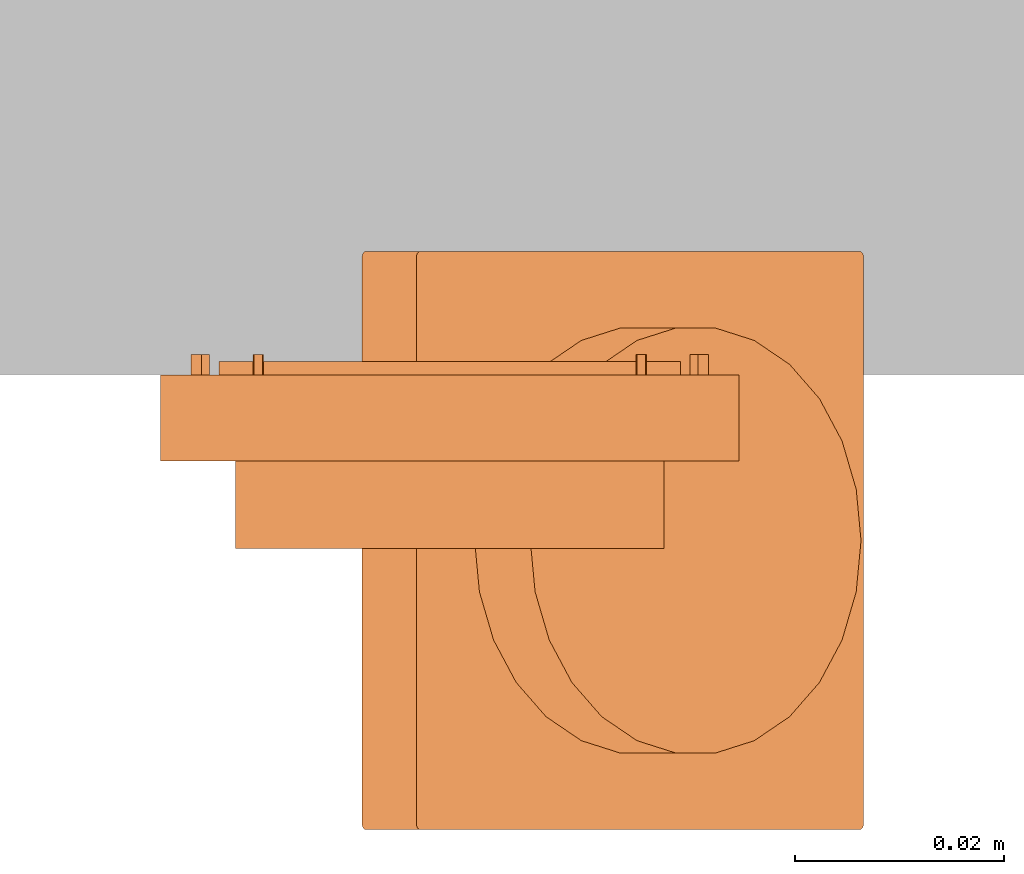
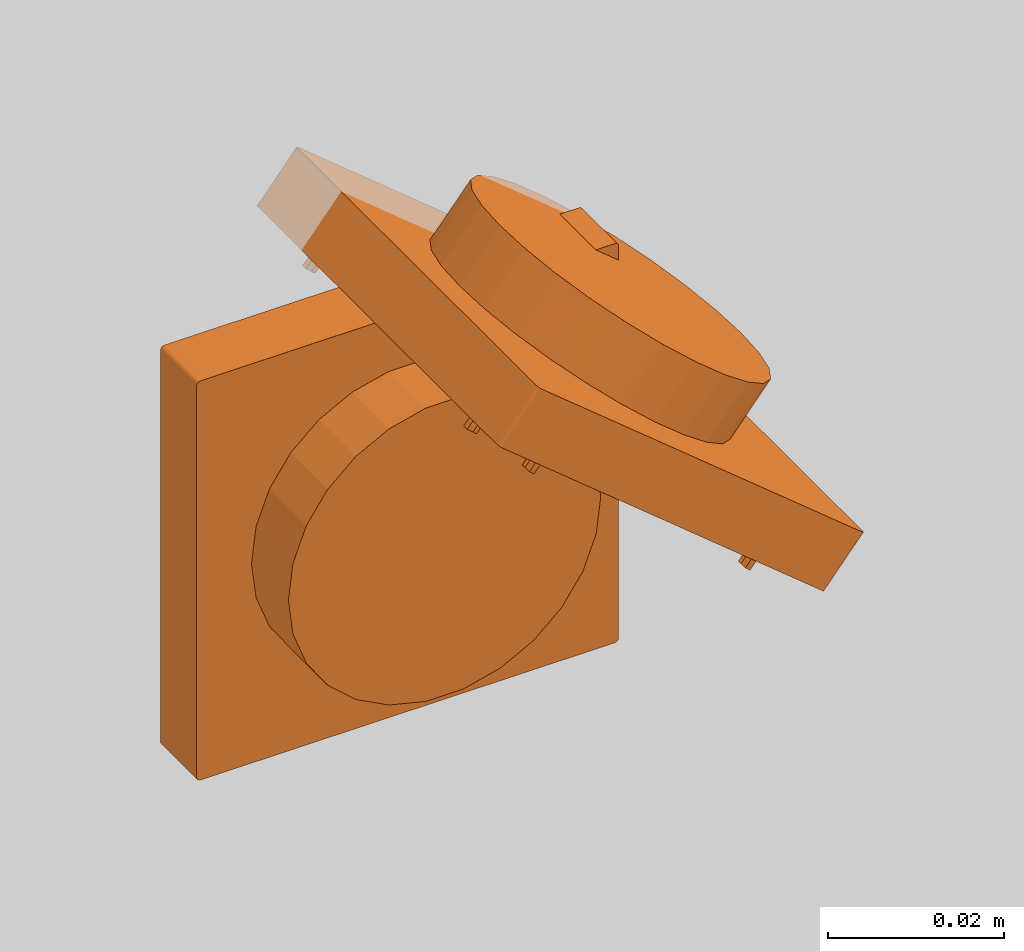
# One storey, part 2 of 2: 2 proxies.
"""IFC2X3 building model written with IfcOpenShell, lengths in metres."""

from ifc_helpers import new_model, entity, si_unit, converted_unit, derived_unit, direction, frame, frame_2d, origin, origin_2d_with_axis, place, context, subcontext, project, spatial, polyline, circle_curve, parameter, trimmed, segment, composite_curve, circle, outline, extrude, source, transform, mapped, material, type_object, type_shapes, element, save


model = new_model("IFC2X3")

# Units and contexts
model_context = context("Model", 3, precision=1e-05, world=origin(), true_north=direction((6.12303176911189e-17, 1.0)))
body_context = subcontext(model_context, "Body", "Model", "MODEL_VIEW")
ifc_project = project(units=[si_unit("LENGTHUNIT", "METRE"), si_unit("AREAUNIT", "SQUARE_METRE"), si_unit("VOLUMEUNIT", "CUBIC_METRE"), converted_unit("PLANEANGLEUNIT", "DEGREE", entity("IfcRatioMeasure", 0.0174532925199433), si_unit("PLANEANGLEUNIT", "RADIAN"), dimensions=[0, 0, 0, 0, 0, 0, 0]), si_unit("MASSUNIT", "GRAM", prefix="KILO"), si_unit("TIMEUNIT", "SECOND"), si_unit("FREQUENCYUNIT", "HERTZ"), si_unit("THERMODYNAMICTEMPERATUREUNIT", "DEGREE_CELSIUS"), derived_unit("THERMALTRANSMITTANCEUNIT", [(si_unit("MASSUNIT", "GRAM", prefix="KILO"), 1), (si_unit("THERMODYNAMICTEMPERATUREUNIT", "KELVIN"), -1), (si_unit("TIMEUNIT", "SECOND"), -3)]), derived_unit("VOLUMETRICFLOWRATEUNIT", [(si_unit("LENGTHUNIT", "METRE"), 3), (si_unit("TIMEUNIT", "SECOND"), -1)]), si_unit("ELECTRICCURRENTUNIT", "AMPERE"), si_unit("ELECTRICVOLTAGEUNIT", "VOLT"), si_unit("POWERUNIT", "WATT"), si_unit("FORCEUNIT", "NEWTON", prefix="KILO"), si_unit("ILLUMINANCEUNIT", "LUX"), si_unit("LUMINOUSFLUXUNIT", "LUMEN"), si_unit("LUMINOUSINTENSITYUNIT", "CANDELA"), derived_unit("USERDEFINED", [(si_unit("MASSUNIT", "GRAM", prefix="KILO"), -1), (si_unit("LENGTHUNIT", "METRE"), -2), (si_unit("TIMEUNIT", "SECOND"), 3), (si_unit("LUMINOUSFLUXUNIT", "LUMEN"), 1)]), derived_unit("LINEARVELOCITYUNIT", [(si_unit("LENGTHUNIT", "METRE"), 1), (si_unit("TIMEUNIT", "SECOND"), -1)]), si_unit("PRESSUREUNIT", "PASCAL"), derived_unit("USERDEFINED", [(si_unit("LENGTHUNIT", "METRE"), -2), (si_unit("MASSUNIT", "GRAM", prefix="KILO"), 1), (si_unit("TIMEUNIT", "SECOND"), -2)])], contexts=[model_context])

# Site, building, storey
site_placement = place(None, origin())
site = spatial("IfcSite", under=ifc_project, at=site_placement, Name="Default", CompositionType="ELEMENT")
building_placement = place(site_placement, origin())
building = spatial("IfcBuilding", under=site, at=building_placement, CompositionType="ELEMENT")
storey_placement = place(building_placement, origin())
storey = spatial("IfcBuildingStorey", under=building, at=storey_placement, Name="Ebene 0", CompositionType="ELEMENT", Elevation=0.0)

# Proxies
ifc_material = material(Name="White")
building_element_proxy_type = type_object("IfcBuildingElementProxyType", Name="GIRA_065227_ENG", PredefinedType="NOTDEFINED", material=ifc_material)
shared_shape = source(origin(), body_context, "Body", "SweptSolid", [
    extrude(outline(polyline([(0.0124903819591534, -0.0367577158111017), (0.0125960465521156, -0.0367946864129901), (0.0127072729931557, -0.0368072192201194), (0.0128184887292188, -0.0367946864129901), (0.0129241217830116, -0.0367577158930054), (0.0130188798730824, -0.0366981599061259), (0.0130980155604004, -0.0366190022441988), (0.0131575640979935, -0.0365242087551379), (0.0367577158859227, 0.0124903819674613), (0.0367946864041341, 0.0125960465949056), (0.0368072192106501, 0.012707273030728), (0.0367946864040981, 0.0128184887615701), (0.0367577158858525, 0.012924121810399), (0.0366981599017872, 0.0130188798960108), (0.0366190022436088, 0.0130980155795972), (0.0365242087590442, 0.0131575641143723), (-0.0124903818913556, 0.0367577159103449), (-0.0125960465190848, 0.036794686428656), (-0.0127072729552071, 0.0368072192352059), (-0.0128184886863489, 0.0367946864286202), (-0.0129241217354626, 0.0367577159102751), (-0.0130188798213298, 0.0366981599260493), (-0.0130980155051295, 0.0366190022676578), (-0.0131575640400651, 0.0365242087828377), (-0.0367577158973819, -0.0124903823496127), (-0.0367946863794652, -0.0125960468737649), (-0.036807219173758, -0.012707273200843), (-0.0367946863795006, -0.0128184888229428), (-0.0367577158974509, -0.0129241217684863), (-0.036698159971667, -0.0130188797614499), (-0.0366190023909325, -0.0130980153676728), (-0.0365242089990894, -0.0131575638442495), (0.0124903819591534, -0.0367577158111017)])), frame((0.0, 0.0, 0.00719999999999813), z_axis=(0.0, 0.0, 1.0), x_axis=(0.433823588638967, -0.900997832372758, 0.0)), (0.0, 0.0, 1.0), 0.000999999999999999),
    extrude(outline(composite_curve([segment(trimmed(circle_curve(frame_2d((0.0, -0.00392499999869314), x_axis=(1.0, 0.0)), 0.00990000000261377), [parameter(3.56222124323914e-13)], [parameter(52.4601073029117)], True, "PARAMETER"), True, "CONTINUOUS"), segment(polyline([(0.00603220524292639, 0.00392499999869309), (-0.00603220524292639, 0.00392499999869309)]), True, "CONTINUOUS"), segment(trimmed(circle_curve(frame_2d((0.0, -0.00392499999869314), x_axis=(1.0, 0.0)), 0.00990000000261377), [parameter(127.539892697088)], [parameter(180.0)], True, "PARAMETER"), True, "CONTINUOUS"), segment(trimmed(circle_curve(frame_2d((0.0, -0.00392499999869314), x_axis=(1.0, 0.0)), 0.00990000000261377), [parameter(180.0)], [parameter(360.0)], True, "PARAMETER"), True, "CONTINUOUS")], self_intersect=False), holes=[composite_curve([segment(trimmed(circle_curve(frame_2d((0.0, -0.00392500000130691), x_axis=(-1.0, 0.0)), 0.00525), [parameter(89.9999999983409)], [parameter(270.00000000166)], True, "PARAMETER"), False, "CONTINUOUS"), segment(trimmed(circle_curve(frame_2d((0.0, -0.00392500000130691), x_axis=(-1.0, 0.0)), 0.00525), [parameter(269.999999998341)], [parameter(90.0000000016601)], True, "PARAMETER"), False, "CONTINUOUS")], self_intersect=False)]), frame((0.0, -0.00392500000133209, 0.000199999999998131), z_axis=(0.0, 0.0, 1.0), x_axis=(-1.0, 0.0, 0.0)), (0.0, 0.0, 1.0), 0.006),
    extrude(outline(composite_curve([segment(trimmed(circle_curve(origin_2d_with_axis(), 0.0220999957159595), [parameter(0.0)], [parameter(180.0)], True, "PARAMETER"), True, "CONTINUOUS"), segment(trimmed(circle_curve(origin_2d_with_axis(), 0.0220999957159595), [parameter(180.0)], [parameter(360.0)], True, "PARAMETER"), True, "CONTINUOUS")], self_intersect=False), holes=[composite_curve([segment(trimmed(circle_curve(frame_2d((4.99625952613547e-09, 1.77921753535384e-09), x_axis=(-1.0, 0.0)), 0.00990000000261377), [parameter(127.539892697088)], [parameter(180.0)], True, "PARAMETER"), False, "CONTINUOUS"), segment(polyline([(0.00603221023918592, -0.0078499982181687), (0.0140000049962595, -0.0078499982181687)]), True, "CONTINUOUS"), segment(polyline([(0.0140000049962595, -0.0078499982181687), (0.0140000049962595, -0.0153999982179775)]), True, "CONTINUOUS"), segment(trimmed(circle_curve(frame_2d((0.0122500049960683, -0.0153999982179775), x_axis=(1.0, 0.0)), 0.00175000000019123), [parameter(269.999999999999)], [parameter(360.0)], True, "PARAMETER"), False, "CONTINUOUS"), segment(polyline([(0.0122500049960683, -0.017149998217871), (0.0068000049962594, -0.017149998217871)]), True, "CONTINUOUS"), segment(polyline([(0.0068000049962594, -0.017149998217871), (0.0068000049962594, -0.0181499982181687)]), True, "CONTINUOUS"), segment(polyline([(0.0068000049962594, -0.0181499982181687), (-0.000999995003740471, -0.0181499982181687)]), True, "CONTINUOUS"), segment(polyline([(-0.000999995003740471, -0.0181499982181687), (-0.000999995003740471, -0.0171499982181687)]), True, "CONTINUOUS"), segment(polyline([(-0.000999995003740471, -0.0171499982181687), (-0.0122499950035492, -0.0171499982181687)]), True, "CONTINUOUS"), segment(trimmed(circle_curve(frame_2d((-0.0122499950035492, -0.0153999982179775), x_axis=(1.0, 0.0)), 0.00175000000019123), [parameter(180.0)], [parameter(269.999999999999)], True, "PARAMETER"), False, "CONTINUOUS"), segment(polyline([(-0.0139999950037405, -0.0153999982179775), (-0.0139999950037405, -0.0078499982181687)]), True, "CONTINUOUS"), segment(polyline([(-0.0139999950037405, -0.0078499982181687), (-0.00603220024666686, -0.0078499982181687)]), True, "CONTINUOUS"), segment(trimmed(circle_curve(frame_2d((4.99625952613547e-09, 1.77921753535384e-09), x_axis=(-1.0, 0.0)), 0.00990000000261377), [parameter(3.05333249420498e-13)], [parameter(52.4601073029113)], True, "PARAMETER"), False, "CONTINUOUS"), segment(trimmed(circle_curve(frame_2d((4.99625952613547e-09, 1.77921753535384e-09), x_axis=(-1.0, 0.0)), 0.00990000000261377), [parameter(180.0)], [parameter(0.0)], True, "PARAMETER"), False, "CONTINUOUS")], self_intersect=False), composite_curve([segment(trimmed(circle_curve(frame_2d((0.0050000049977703, 0.0185000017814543), x_axis=(1.0, 0.0)), 0.00200000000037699), [parameter(180.0)], [parameter(360.0)], True, "PARAMETER"), False, "CONTINUOUS"), segment(trimmed(circle_curve(frame_2d((0.0050000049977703, 0.0185000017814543), x_axis=(1.0, 0.0)), 0.00200000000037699), [parameter(4.07110999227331e-13)], [parameter(180.0)], True, "PARAMETER"), False, "CONTINUOUS")], self_intersect=False)]), frame((-4.99624068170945e-09, -1.78185648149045e-09, -0.00130000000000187)), (0.0, 0.0, 1.0), 0.0075),
    extrude(outline(composite_curve([segment(trimmed(circle_curve(origin_2d_with_axis(), 0.00500000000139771), [parameter(306.869897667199)], [parameter(53.1301023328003)], True, "PARAMETER"), True, "CONTINUOUS"), segment(polyline([(0.00300000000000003, 0.00399999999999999), (-0.00300000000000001, 0.00400000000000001)]), True, "CONTINUOUS"), segment(trimmed(circle_curve(origin_2d_with_axis(), 0.00500000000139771), [parameter(126.8698976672)], [parameter(233.1301023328)], True, "PARAMETER"), True, "CONTINUOUS"), segment(polyline([(-0.00300000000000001, -0.00399999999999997), (0.00300000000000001, -0.00399999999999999)]), True, "CONTINUOUS")], self_intersect=False)), frame((0.0, 0.0, -0.000800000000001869), z_axis=(0.0, 0.0, 1.0), x_axis=(-1.0, 0.0, 0.0)), (0.0, 0.0, 1.0), 0.007),
    extrude(outline(composite_curve([segment(polyline([(-0.00049999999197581, -0.000399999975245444), (0.000499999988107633, -0.000399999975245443)]), True, "CONTINUOUS"), segment(trimmed(circle_curve(frame_2d((0.000800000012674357, 0.0), x_axis=(-1.0, 0.0)), 0.000499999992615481), [parameter(53.1300982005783)], [parameter(306.869900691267)], True, "PARAMETER"), True, "CONTINUOUS"), segment(polyline([(0.000499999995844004, 0.000399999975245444), (-0.000499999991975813, 0.000399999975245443)]), True, "CONTINUOUS"), segment(polyline([(-0.000499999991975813, 0.000399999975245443), (-0.00049999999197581, -0.000399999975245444)]), True, "CONTINUOUS")], self_intersect=False)), frame((0.0183499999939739, 0.0243000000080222, -0.00200000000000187), z_axis=(0.0, 0.0, 1.0), x_axis=(0.0, -1.0, 0.0)), (0.0, 0.0, 1.0), 0.0082),
    extrude(outline(composite_curve([segment(polyline([(-0.00049999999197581, -0.000399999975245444), (0.000499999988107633, -0.000399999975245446)]), True, "CONTINUOUS"), segment(trimmed(circle_curve(frame_2d((0.000800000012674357, 0.0), x_axis=(-1.0, 0.0)), 0.000499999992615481), [parameter(53.1300982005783)], [parameter(306.869900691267)], True, "PARAMETER"), True, "CONTINUOUS"), segment(polyline([(0.000499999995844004, 0.000399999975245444), (-0.000499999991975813, 0.000399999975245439)]), True, "CONTINUOUS"), segment(polyline([(-0.000499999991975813, 0.000399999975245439), (-0.00049999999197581, -0.000399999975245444)]), True, "CONTINUOUS")], self_intersect=False)), frame((-0.0183500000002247, 0.0243000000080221, -0.00200000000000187), z_axis=(0.0, 0.0, 1.0), x_axis=(0.0, -1.0, 0.0)), (0.0, 0.0, 1.0), 0.0082),
    extrude(outline(composite_curve([segment(polyline([(-0.000399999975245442, -0.000499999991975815), (0.000399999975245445, -0.000499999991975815)]), True, "CONTINUOUS"), segment(polyline([(0.000399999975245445, -0.000499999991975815), (0.000399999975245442, 0.000499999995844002)]), True, "CONTINUOUS"), segment(trimmed(circle_curve(frame_2d((0.0, 0.000800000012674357), x_axis=(0.0, -1.0)), 0.000499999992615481), [parameter(53.1300993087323)], [parameter(306.869901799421)], True, "PARAMETER"), True, "CONTINUOUS"), segment(polyline([(-0.000399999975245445, 0.000499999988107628), (-0.000399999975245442, -0.000499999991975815)]), True, "CONTINUOUS")], self_intersect=False)), frame((0.0183499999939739, -0.0243000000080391, -0.00200000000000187)), (0.0, 0.0, 1.0), 0.0082),
    extrude(outline(composite_curve([segment(polyline([(-0.000399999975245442, -0.000499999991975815), (0.000399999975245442, -0.000499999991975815)]), True, "CONTINUOUS"), segment(polyline([(0.000399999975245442, -0.000499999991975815), (0.000399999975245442, 0.000499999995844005)]), True, "CONTINUOUS"), segment(trimmed(circle_curve(frame_2d((0.0, 0.000800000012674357), x_axis=(0.0, -1.0)), 0.000499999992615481), [parameter(53.1300993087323)], [parameter(306.869901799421)], True, "PARAMETER"), True, "CONTINUOUS"), segment(polyline([(-0.000399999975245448, 0.000499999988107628), (-0.000399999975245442, -0.000499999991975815)]), True, "CONTINUOUS")], self_intersect=False)), frame((-0.0183500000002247, -0.024300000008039, -0.00200000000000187)), (0.0, 0.0, 1.0), 0.0082),
    extrude(outline(composite_curve([segment(polyline([(-0.000499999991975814, -0.000399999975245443), (0.000499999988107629, -0.000399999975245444)]), True, "CONTINUOUS"), segment(trimmed(circle_curve(frame_2d((0.000800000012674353, 0.0), x_axis=(-1.0, 0.0)), 0.000499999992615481), [parameter(53.1300982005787)], [parameter(306.869900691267)], True, "PARAMETER"), True, "CONTINUOUS"), segment(polyline([(0.000499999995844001, 0.000399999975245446), (-0.000499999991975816, 0.000399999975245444)]), True, "CONTINUOUS"), segment(polyline([(-0.000499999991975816, 0.000399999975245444), (-0.000499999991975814, -0.000399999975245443)]), True, "CONTINUOUS")], self_intersect=False)), frame((0.0243000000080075, -0.0183499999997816, -0.00200000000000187), z_axis=(0.0, 0.0, 1.0), x_axis=(-1.0, 0.0, 0.0)), (0.0, 0.0, 1.0), 0.0082),
    extrude(outline(composite_curve([segment(polyline([(-0.000499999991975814, -0.000399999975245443), (0.000499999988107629, -0.000399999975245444)]), True, "CONTINUOUS"), segment(trimmed(circle_curve(frame_2d((0.000800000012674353, 0.0), x_axis=(-1.0, 0.0)), 0.000499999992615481), [parameter(53.1300982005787)], [parameter(306.869900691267)], True, "PARAMETER"), True, "CONTINUOUS"), segment(polyline([(0.000499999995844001, 0.000399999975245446), (-0.000499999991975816, 0.000399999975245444)]), True, "CONTINUOUS"), segment(polyline([(-0.000499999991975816, 0.000399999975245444), (-0.000499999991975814, -0.000399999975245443)]), True, "CONTINUOUS")], self_intersect=False)), frame((0.0243000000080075, 0.0183500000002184, -0.00200000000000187), z_axis=(0.0, 0.0, 1.0), x_axis=(-1.0, 0.0, 0.0)), (0.0, 0.0, 1.0), 0.0082),
    extrude(outline(composite_curve([segment(polyline([(-0.000399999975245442, -0.000499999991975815), (0.000399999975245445, -0.000499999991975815)]), True, "CONTINUOUS"), segment(polyline([(0.000399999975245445, -0.000499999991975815), (0.000399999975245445, 0.000499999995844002)]), True, "CONTINUOUS"), segment(trimmed(circle_curve(frame_2d((0.0, 0.000800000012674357), x_axis=(0.0, -1.0)), 0.000499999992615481), [parameter(53.1300993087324)], [parameter(306.869901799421)], True, "PARAMETER"), True, "CONTINUOUS"), segment(polyline([(-0.000399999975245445, 0.000499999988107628), (-0.000399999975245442, -0.000499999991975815)]), True, "CONTINUOUS")], self_intersect=False)), frame((-0.024300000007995, -0.0183499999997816, -0.00200000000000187), z_axis=(0.0, 0.0, 1.0), x_axis=(0.0, -1.0, 0.0)), (0.0, 0.0, 1.0), 0.0082),
    extrude(outline(composite_curve([segment(polyline([(-0.000399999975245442, -0.000499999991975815), (0.000399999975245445, -0.000499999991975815)]), True, "CONTINUOUS"), segment(polyline([(0.000399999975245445, -0.000499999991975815), (0.000399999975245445, 0.000499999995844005)]), True, "CONTINUOUS"), segment(trimmed(circle_curve(frame_2d((0.0, 0.000800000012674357), x_axis=(0.0, -1.0)), 0.000499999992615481), [parameter(53.1300993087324)], [parameter(306.869901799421)], True, "PARAMETER"), True, "CONTINUOUS"), segment(polyline([(-0.000399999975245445, 0.000499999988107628), (-0.000399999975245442, -0.000499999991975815)]), True, "CONTINUOUS")], self_intersect=False)), frame((-0.0243000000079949, 0.0183500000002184, -0.00200000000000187), z_axis=(0.0, 0.0, 1.0), x_axis=(0.0, -1.0, 0.0)), (0.0, 0.0, 1.0), 0.0082),
    extrude(outline(polyline([(0.0124903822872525, -0.0367577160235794), (0.0125960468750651, -0.0367946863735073), (0.0127072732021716, -0.0368072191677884), (0.0128184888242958, -0.0367946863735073), (0.0129241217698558, -0.0367577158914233), (0.0130188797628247, -0.0366981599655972), (0.013098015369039, -0.0366190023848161), (0.0131575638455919, -0.0365242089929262), (0.0367577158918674, 0.0124903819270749), (0.0367946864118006, 0.0125960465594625), (0.0368072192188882, 0.0127072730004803), (0.0367946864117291, 0.0128184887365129), (0.0367577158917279, 0.0129241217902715), (0.0366981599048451, 0.0130188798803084), (0.0366190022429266, 0.0130980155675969), (0.0365242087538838, 0.0131575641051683), (-0.0124903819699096, 0.0367577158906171), (-0.0125960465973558, 0.0367946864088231), (-0.0127072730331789, 0.0368072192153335), (-0.0128184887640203, 0.0367946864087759), (-0.0129241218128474, 0.036757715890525), (-0.0130188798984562, 0.0366981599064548), (-0.0130980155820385, 0.0366190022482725), (-0.0131575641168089, 0.0365242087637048), (-0.036757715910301, -0.0124903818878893), (-0.0367946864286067, -0.0125960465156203), (-0.036807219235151, -0.0127072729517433), (-0.0367946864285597, -0.0128184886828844), (-0.0367577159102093, -0.0129241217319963), (-0.0366981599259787, -0.0130188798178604), (-0.0366190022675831, -0.0130980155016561), (-0.0365242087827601, -0.0131575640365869), (0.0124903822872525, -0.0367577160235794)]), holes=[polyline([(-0.0282598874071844, -0.0154719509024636), (-0.0349723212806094, -0.0122399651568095), (-0.0317403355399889, -0.0055275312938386), (-0.0304789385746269, -0.00613488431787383), (-0.0301318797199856, -0.00541408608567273), (-0.0313932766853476, -0.00480673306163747), (-0.0158190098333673, 0.0275390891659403), (-0.0145576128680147, 0.0269317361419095), (-0.0142105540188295, 0.0276525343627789), (-0.0154719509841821, 0.0282598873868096), (-0.0122399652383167, 0.0349723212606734), (-0.00552753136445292, 0.031740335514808), (-0.00613488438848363, 0.0304789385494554), (-0.00541408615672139, 0.0301318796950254), (-0.00480673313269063, 0.0313932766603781), (0.027539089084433, 0.0158190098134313), (0.0269317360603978, 0.0145576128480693), (0.027652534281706, 0.0142105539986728), (0.0282598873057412, 0.0154719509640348), (0.0349723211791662, 0.0122399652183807), (0.0317403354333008, 0.0055275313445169), (0.0304789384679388, 0.00613488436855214), (0.0301318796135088, 0.00541408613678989), (0.0313932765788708, 0.00480673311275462), (0.0158190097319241, -0.027539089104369), (0.0145576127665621, -0.0269317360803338), (0.0142105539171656, -0.027652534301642), (0.0154719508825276, -0.0282598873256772), (0.0122399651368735, -0.0349723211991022), (0.00552753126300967, -0.0317403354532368), (0.00613488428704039, -0.0304789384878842), (0.00541408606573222, -0.0301318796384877), (0.00480673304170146, -0.0313932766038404), (-0.0275390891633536, -0.0158190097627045), (-0.0269317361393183, -0.0145576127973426), (-0.0276525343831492, -0.0142105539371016), (-0.0282598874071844, -0.0154719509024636)])]), frame((0.0, 0.0, 0.0), z_axis=(0.0, 0.0, 1.0), x_axis=(-0.900997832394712, -0.433823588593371, 0.0)), (0.0, 0.0, 1.0), 0.0072),
    extrude(circle(Radius=0.0205000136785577, at=frame_2d((0.00152387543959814, -0.000611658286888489), x_axis=(1.0, 0.0))), frame((0.00152387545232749, -0.000611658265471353, 0.00819999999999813), z_axis=(0.0, 0.0, 1.0), x_axis=(-1.0, 0.0, 0.0)), (0.0, 0.0, 1.0), 0.0084),
])
type_shapes(building_element_proxy_type, [shared_shape])
for number, where, z_axis, x_axis, name in (
    (1, (-3.59723411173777, 2.83066111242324, 1.50687294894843), (0.0, -1.0, 0.0), (1.0, 0.0, 0.0), "GIRA_065227_ENG:GIRA_065227_ENG"),
    (2, (-3.58422018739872, 2.81482165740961, 1.52271240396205), (0.63482515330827, 0.0, 0.77265582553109), (-0.77265582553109, 0.0, 0.63482515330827), "GIRA_065227_ENG:GIRA_065227_ENG"),
):
    element("IfcBuildingElementProxy", number, at=place(storey_placement, frame(where, z_axis=z_axis, x_axis=x_axis)), inside=storey, type_object=building_element_proxy_type, material=ifc_material, Name=name, ObjectType="GIRA_065227_ENG", context=body_context, shape_type="MappedRepresentation", body=[
        mapped(shared_shape, transform((0.0, 0.0, 0.0), scale=1.0)),
    ])

save(model, "model.ifc")
